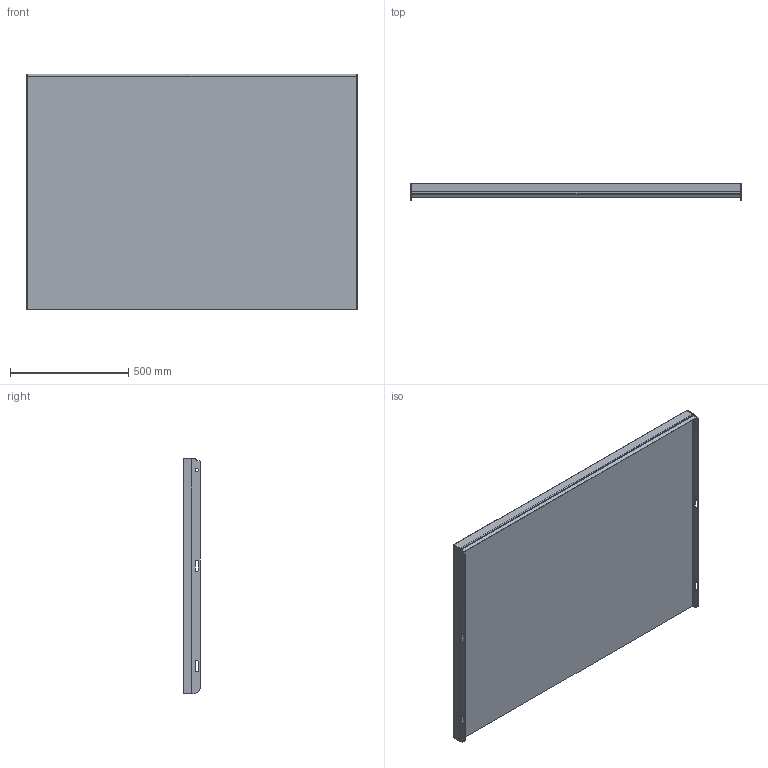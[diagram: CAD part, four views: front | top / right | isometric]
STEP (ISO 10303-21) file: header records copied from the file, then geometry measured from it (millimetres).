
FILE_DESCRIPTION (( 'STEP AP203' ), '1' );
FILE_NAME ('148814101, Plan TH6, 1400x1000, vfz.STEP', '2020-10-21T13:19:42', ( '' ), ( '' ), 'SwSTEP 2.0', 'SolidWorks 2019', '' );
FILE_SCHEMA (( 'CONFIG_CONTROL_DESIGN' ));
Length unit declared in the file: millimetre
Products named in the file (4): 148814101, Plan TH6, 1400x1000, vfz; SW0000041407; SW0000041756; SW0000041805
Assembly tree (4 placements, depth 2):
  148814101, Plan TH6, 1400x1000, vfz
    SW0000041805
    SW0000041407  x2
    SW0000041756
Bounding box: 1400 x 70 x 997 mm (x, y, z)
Volume: 49156106.3 mm3; surface area: 3400800.1 mm2
Topology: 4 solids, 4 shells, 69 faces, 172 edges, 112 vertices
Faces by surface type: plane 49, cylinder 20
Entity records: 1868 total; most frequent: DIRECTION 252, CARTESIAN_POINT 250, ORIENTED_EDGE 236, EDGE_CURVE 118, LINE 96, VECTOR 96, AXIS2_PLACEMENT_3D 78, VERTEX_POINT 76
